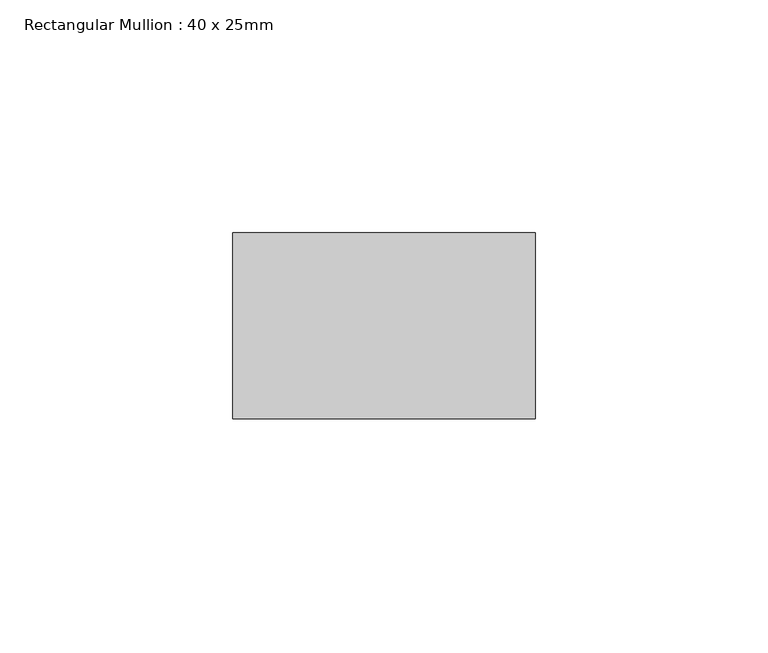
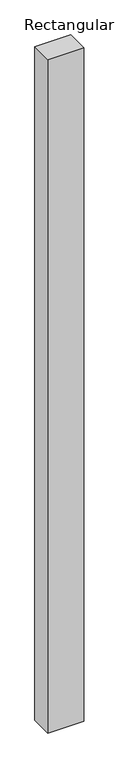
"""IFC4 building model written with IfcOpenShell, lengths in millimetres: member geometry, Rectangular Mullion : 40 x 25mm."""

from ifc_helpers import new_model, si_unit, frame, origin, place, context, project, spatial, polyline, outline, extrude, source, transform, mapped, element, save


def rectangular_mullion_40_x_25mm_8d2c03e1(model_context):
    return source(origin(), model_context, "Body", "SweptSolid", [
        extrude(outline(polyline([(0.0, -20.0), (0.0, -60.0), (-65.0, -60.0), (-65.0, -20.0), (0.0, -20.0)])), frame((0.0, 0.0, -1282.4725229), z_axis=(0.0, 0.0, 1.0), x_axis=(1.0, 0.0, 0.0)), (0.0, 0.0, 1.0), 1282.4725229),
    ])


if __name__ == "__main__":
    model = new_model("IFC4")
    model_context = context("Model", 3, world=origin())
    ifc_project = project(units=[si_unit("LENGTHUNIT", "METRE", prefix="MILLI")], contexts=[model_context])
    site = spatial("IfcSite", under=ifc_project)
    building = spatial("IfcBuilding", under=site)
    placement = place(None, origin())
    rectangular_mullion_40_x_25mm_shape = rectangular_mullion_40_x_25mm_8d2c03e1(model_context)
    element("IfcMember", 1, ObjectType="Rectangular Mullion : 40 x 25mm", at=placement, inside=building, context=model_context, shape_type="MappedRepresentation", body=[
        mapped(rectangular_mullion_40_x_25mm_shape, transform((0.0, 0.0, 0.0), x_axis=(1.0, 0.0, 0.0), y_axis=(0.0, 1.0, 0.0), z_axis=(0.0, 0.0, 1.0))),
    ])
    save(model, "model.ifc")
